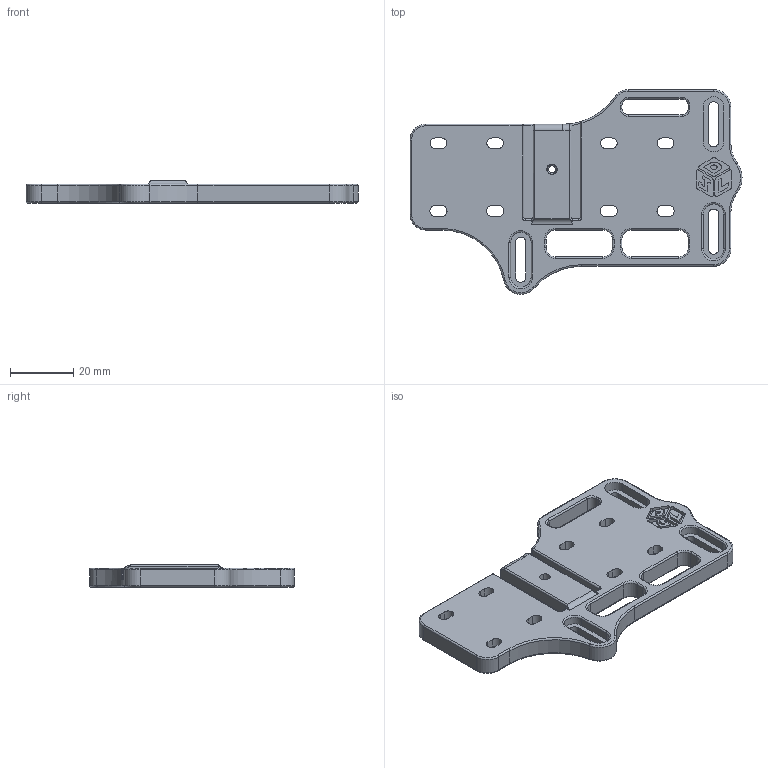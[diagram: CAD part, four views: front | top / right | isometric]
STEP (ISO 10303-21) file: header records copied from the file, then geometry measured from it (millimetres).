
FILE_DESCRIPTION(('CATIA V5 STEP Exchange'),'2;1');
FILE_NAME('E:\Dropbox\3D Printer Fan Duct Designs\1.) Artillery Sidewinder X1\3D Models\5015 Double Ducts\HEMERA MATRIX\Hemera ALL Step Files\Insert\Mounting Bracket Insert.stp','2022-01-08T18:49:57+00:00',('none'),('none'),'CATIA Version 5 Release 20 SP 1 (IN-10)','CATIA V5 STEP AP214','none');
FILE_SCHEMA(('AUTOMOTIVE_DESIGN { 1 0 10303 214 1 1 1 1 }'));
Length unit declared in the file: millimetre
Products named in the file (1): ADATTATORE_Z_DOPPIA_5015_HEMERA_MATRIX
Bounding box: 105.2 x 64.92 x 7 mm (x, y, z)
Volume: 23524.3 mm3; surface area: 13237.7 mm2
Topology: 2 solids, 2 shells, 881 faces, 2279 edges, 1423 vertices
Faces by surface type: bspline 354, cylinder 226, plane 225, torus 55, extrusion 10, cone 9, sphere 2
Entity records: 26280 total; most frequent: CARTESIAN_POINT 9218, ORIENTED_EDGE 4554, EDGE_CURVE 2277, DIRECTION 2149, VERTEX_POINT 1423, EDGE_LOOP 936, ADVANCED_FACE 881, FACE_OUTER_BOUND 881
